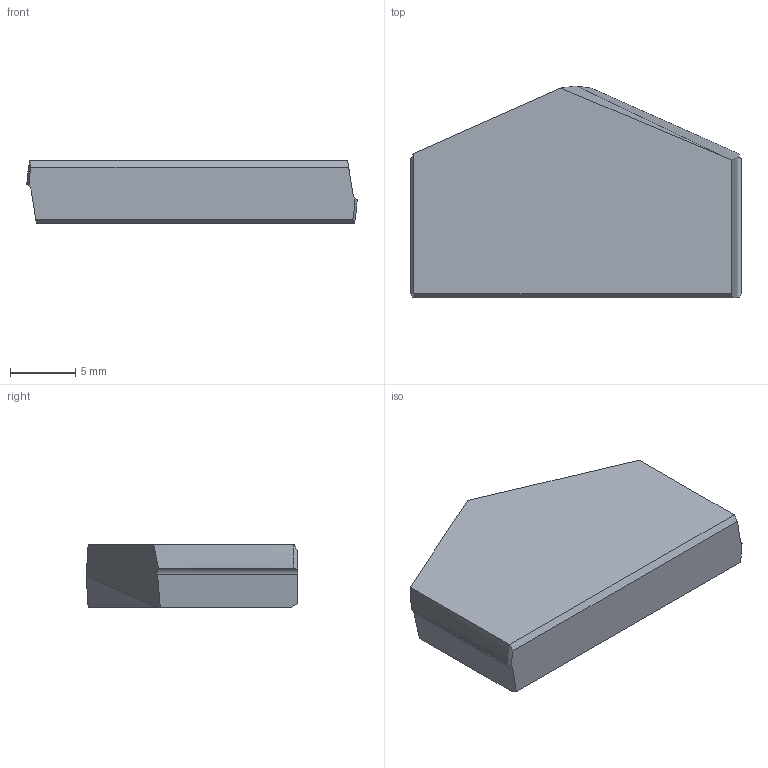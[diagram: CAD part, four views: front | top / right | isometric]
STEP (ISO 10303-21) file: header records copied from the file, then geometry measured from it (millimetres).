
FILE_DESCRIPTION (( 'STEP AP214' ), '1' );
FILE_NAME ('1.STEP', '2022-06-24T05:46:43', ( '' ), ( '' ), 'SwSTEP 2.0', 'SolidWorks 2018', '' );
FILE_SCHEMA (( 'AUTOMOTIVE_DESIGN' ));
Length unit declared in the file: millimetre
Products named in the file (1): 1
Bounding box: 25.37 x 16.25 x 4.8 mm (x, y, z)
Volume: 1594 mm3; surface area: 1003 mm2
Topology: 1 solids, 1 shells, 17 faces, 44 edges, 29 vertices
Faces by surface type: plane 11, cylinder 4, cone 2
Entity records: 554 total; most frequent: CARTESIAN_POINT 121, ORIENTED_EDGE 88, DIRECTION 76, EDGE_CURVE 44, VERTEX_POINT 29, VECTOR 28, LINE 28, AXIS2_PLACEMENT_3D 24
